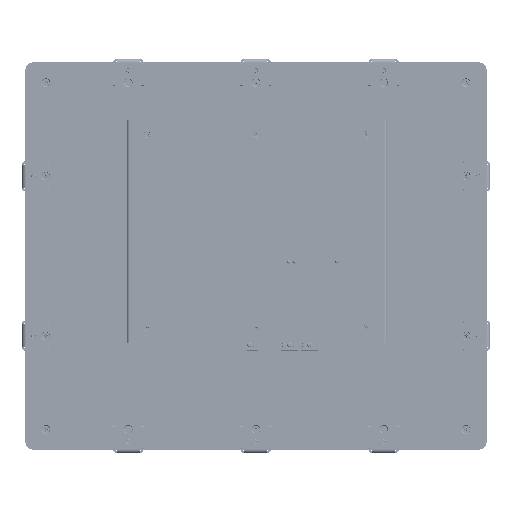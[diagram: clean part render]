
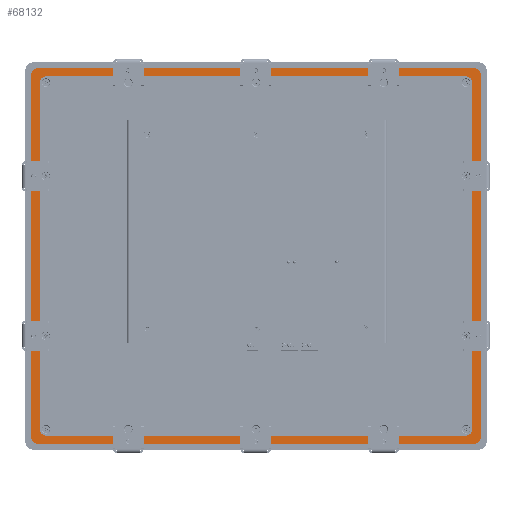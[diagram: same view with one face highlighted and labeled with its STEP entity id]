
A CAD part, left-side view. The second image highlights one B-rep face of the part: STEP entity #68132.
In plain terms, the highlighted planar face has unit normal (-1, 0, 0).
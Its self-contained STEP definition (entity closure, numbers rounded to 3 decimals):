
#68132=ADVANCED_FACE('',(#147095,#147097),#147099,.T.);
#147095=FACE_BOUND('',#147096,.T.);
#147096=EDGE_LOOP('',(#210123,#210124,#210125,#210126,#210127,#210128,#210129,#210130));
#147097=FACE_BOUND('',#147098,.T.);
#147098=EDGE_LOOP('',(#210131,#210132,#210133,#210134,#210135,#210136,#210137,#210138));
#147099=PLANE('',#147100);
#147100=AXIS2_PLACEMENT_3D('',#147101,#147102,#147103);
#147101=CARTESIAN_POINT('',(-7.,0.,0.));
#147102=DIRECTION('',(-1.,0.,0.));
#147103=DIRECTION('',(0.,-1.,0.));
#210123=ORIENTED_EDGE('',*,*,#246914,.T.);
#210124=ORIENTED_EDGE('',*,*,#246915,.T.);
#210125=ORIENTED_EDGE('',*,*,#246916,.T.);
#210126=ORIENTED_EDGE('',*,*,#246917,.T.);
#210127=ORIENTED_EDGE('',*,*,#246918,.T.);
#210128=ORIENTED_EDGE('',*,*,#246919,.T.);
#210129=ORIENTED_EDGE('',*,*,#246920,.T.);
#210130=ORIENTED_EDGE('',*,*,#246921,.T.);
#210131=ORIENTED_EDGE('',*,*,#245733,.T.);
#210132=ORIENTED_EDGE('',*,*,#245730,.T.);
#210133=ORIENTED_EDGE('',*,*,#245705,.T.);
#210134=ORIENTED_EDGE('',*,*,#245702,.T.);
#210135=ORIENTED_EDGE('',*,*,#245685,.T.);
#210136=ORIENTED_EDGE('',*,*,#245681,.T.);
#210137=ORIENTED_EDGE('',*,*,#245752,.T.);
#210138=ORIENTED_EDGE('',*,*,#245750,.T.);
#245681=EDGE_CURVE('',#288462,#288463,#288464,.F.);
#245685=EDGE_CURVE('',#288467,#288462,#288469,.T.);
#245702=EDGE_CURVE('',#288502,#288467,#288503,.F.);
#245705=EDGE_CURVE('',#288505,#288502,#288507,.T.);
#245730=EDGE_CURVE('',#288556,#288505,#288557,.F.);
#245733=EDGE_CURVE('',#288559,#288556,#288561,.T.);
#245750=EDGE_CURVE('',#288594,#288559,#288595,.F.);
#245752=EDGE_CURVE('',#288463,#288594,#288597,.T.);
#246914=EDGE_CURVE('',#290785,#290786,#290787,.T.);
#246915=EDGE_CURVE('',#290786,#290788,#290789,.T.);
#246916=EDGE_CURVE('',#290788,#290790,#290791,.T.);
#246917=EDGE_CURVE('',#290790,#290792,#290793,.T.);
#246918=EDGE_CURVE('',#290792,#290794,#290795,.T.);
#246919=EDGE_CURVE('',#290794,#290796,#290797,.T.);
#246920=EDGE_CURVE('',#290796,#290798,#290799,.T.);
#246921=EDGE_CURVE('',#290798,#290785,#290800,.T.);
#288462=VERTEX_POINT('',#393497);
#288463=VERTEX_POINT('',#393498);
#288464=CIRCLE('',#393499,6.);
#288467=VERTEX_POINT('',#393509);
#288469=LINE('',#393513,#393514);
#288502=VERTEX_POINT('',#393580);
#288503=CIRCLE('',#393581,6.);
#288505=VERTEX_POINT('',#393588);
#288507=LINE('',#393592,#393593);
#288556=VERTEX_POINT('',#393691);
#288557=CIRCLE('',#393692,6.);
#288559=VERTEX_POINT('',#393699);
#288561=LINE('',#393703,#393704);
#288594=VERTEX_POINT('',#393770);
#288595=CIRCLE('',#393771,6.);
#288597=LINE('',#393778,#393779);
#290785=VERTEX_POINT('',#399021);
#290786=VERTEX_POINT('',#399022);
#290787=CIRCLE('',#399023,8.);
#290788=VERTEX_POINT('',#399027);
#290789=LINE('',#399028,#399029);
#290790=VERTEX_POINT('',#399031);
#290791=CIRCLE('',#399032,8.);
#290792=VERTEX_POINT('',#399036);
#290793=LINE('',#399037,#399038);
#290794=VERTEX_POINT('',#399040);
#290795=CIRCLE('',#399041,8.);
#290796=VERTEX_POINT('',#399045);
#290797=LINE('',#399046,#399047);
#290798=VERTEX_POINT('',#399049);
#290799=CIRCLE('',#399050,8.);
#290800=LINE('',#399054,#399055);
#393497=CARTESIAN_POINT('',(-7.,-197.,-157.5));
#393498=CARTESIAN_POINT('',(-7.,-191.,-163.5));
#393499=AXIS2_PLACEMENT_3D('',#393500,#393501,#393502);
#393500=CARTESIAN_POINT('',(-7.,-191.,-157.5));
#393501=DIRECTION('',(-1.,0.,0.));
#393502=DIRECTION('',(0.,0.,-1.));
#393509=CARTESIAN_POINT('',(-7.,-197.,157.5));
#393513=CARTESIAN_POINT('',(-7.,-197.,157.5));
#393514=VECTOR('',#393515,1.);
#393515=DIRECTION('',(0.,0.,-1.));
#393580=CARTESIAN_POINT('',(-7.,-191.,163.5));
#393581=AXIS2_PLACEMENT_3D('',#393582,#393583,#393584);
#393582=CARTESIAN_POINT('',(-7.,-191.,157.5));
#393583=DIRECTION('',(-1.,0.,0.));
#393584=DIRECTION('',(0.,-1.,0.));
#393588=CARTESIAN_POINT('',(-7.,191.,163.5));
#393592=CARTESIAN_POINT('',(-7.,191.,163.5));
#393593=VECTOR('',#393594,1.);
#393594=DIRECTION('',(0.,-1.,0.));
#393691=CARTESIAN_POINT('',(-7.,197.,157.5));
#393692=AXIS2_PLACEMENT_3D('',#393693,#393694,#393695);
#393693=CARTESIAN_POINT('',(-7.,191.,157.5));
#393694=DIRECTION('',(-1.,0.,0.));
#393695=DIRECTION('',(0.,0.,1.));
#393699=CARTESIAN_POINT('',(-7.,197.,-157.5));
#393703=CARTESIAN_POINT('',(-7.,197.,-157.5));
#393704=VECTOR('',#393705,1.);
#393705=DIRECTION('',(0.,0.,1.));
#393770=CARTESIAN_POINT('',(-7.,191.,-163.5));
#393771=AXIS2_PLACEMENT_3D('',#393772,#393773,#393774);
#393772=CARTESIAN_POINT('',(-7.,191.,-157.5));
#393773=DIRECTION('',(-1.,0.,0.));
#393774=DIRECTION('',(0.,1.,0.));
#393778=CARTESIAN_POINT('',(-7.,-191.,-163.5));
#393779=VECTOR('',#393780,1.);
#393780=DIRECTION('',(0.,1.,0.));
#399021=CARTESIAN_POINT('',(-7.,-205.,163.5));
#399022=CARTESIAN_POINT('',(-7.,-197.,171.5));
#399023=AXIS2_PLACEMENT_3D('',#399024,#399025,#399026);
#399024=CARTESIAN_POINT('',(-7.,-197.,163.5));
#399025=DIRECTION('',(-1.,0.,0.));
#399026=DIRECTION('',(0.,-1.,0.));
#399027=CARTESIAN_POINT('',(-7.,197.,171.5));
#399028=CARTESIAN_POINT('',(-7.,-197.,171.5));
#399029=VECTOR('',#399030,1.);
#399030=DIRECTION('',(0.,1.,0.));
#399031=CARTESIAN_POINT('',(-7.,205.,163.5));
#399032=AXIS2_PLACEMENT_3D('',#399033,#399034,#399035);
#399033=CARTESIAN_POINT('',(-7.,197.,163.5));
#399034=DIRECTION('',(-1.,0.,0.));
#399035=DIRECTION('',(0.,0.,1.));
#399036=CARTESIAN_POINT('',(-7.,205.,-163.5));
#399037=CARTESIAN_POINT('',(-7.,205.,163.5));
#399038=VECTOR('',#399039,1.);
#399039=DIRECTION('',(0.,0.,-1.));
#399040=CARTESIAN_POINT('',(-7.,197.,-171.5));
#399041=AXIS2_PLACEMENT_3D('',#399042,#399043,#399044);
#399042=CARTESIAN_POINT('',(-7.,197.,-163.5));
#399043=DIRECTION('',(-1.,0.,0.));
#399044=DIRECTION('',(0.,1.,0.));
#399045=CARTESIAN_POINT('',(-7.,-197.,-171.5));
#399046=CARTESIAN_POINT('',(-7.,197.,-171.5));
#399047=VECTOR('',#399048,1.);
#399048=DIRECTION('',(0.,-1.,0.));
#399049=CARTESIAN_POINT('',(-7.,-205.,-163.5));
#399050=AXIS2_PLACEMENT_3D('',#399051,#399052,#399053);
#399051=CARTESIAN_POINT('',(-7.,-197.,-163.5));
#399052=DIRECTION('',(-1.,0.,0.));
#399053=DIRECTION('',(0.,0.,-1.));
#399054=CARTESIAN_POINT('',(-7.,-205.,-163.5));
#399055=VECTOR('',#399056,1.);
#399056=DIRECTION('',(0.,0.,1.));
